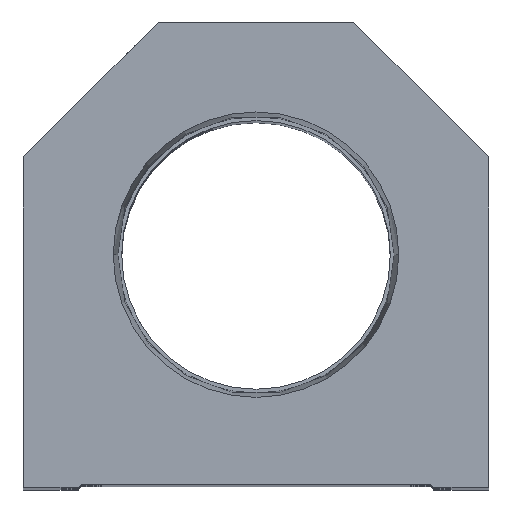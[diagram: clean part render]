
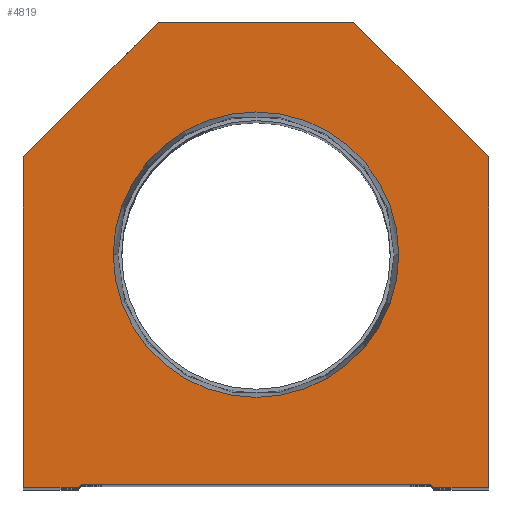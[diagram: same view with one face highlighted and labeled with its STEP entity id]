
A CAD part, top view. The second image highlights one B-rep face of the part: STEP entity #4819.
In plain terms, the highlighted planar face has unit normal (0, 0, 1).
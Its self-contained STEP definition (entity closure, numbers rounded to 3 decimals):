
#162 = CARTESIAN_POINT ( 'NONE',  ( -14.55, 14.55, 0. ) ) ;
#344 = LINE ( 'NONE', #8988, #10031 ) ;
#409 = ORIENTED_EDGE ( 'NONE', *, *, #7203, .T. ) ;
#501 = ORIENTED_EDGE ( 'NONE', *, *, #9640, .T. ) ;
#729 = CARTESIAN_POINT ( 'NONE',  ( 38.1, 0., 0. ) ) ;
#765 = EDGE_CURVE ( 'NONE', #16713, #5226, #12527, .T. ) ;
#839 = EDGE_CURVE ( 'NONE', #6978, #6113, #13245, .T. ) ;
#993 = VECTOR ( 'NONE', #13513, 1000. ) ;
#1048 = EDGE_CURVE ( 'NONE', #17941, #10107, #5691, .T. ) ;
#1127 = EDGE_CURVE ( 'NONE', #14471, #12024, #11930, .T. ) ;
#1178 = DIRECTION ( 'NONE',  ( 0., -1., 0. ) ) ;
#1327 = DIRECTION ( 'NONE',  ( 0.707, -0.707, 0. ) ) ;
#1411 = CARTESIAN_POINT ( 'NONE',  ( 14.55, 14.55, 0. ) ) ;
#1659 = FACE_OUTER_BOUND ( 'NONE', #4245, .T. ) ;
#1836 = ORIENTED_EDGE ( 'NONE', *, *, #17218, .F. ) ;
#1986 = EDGE_CURVE ( 'NONE', #5226, #11975, #344, .T. ) ;
#2217 = VECTOR ( 'NONE', #4104, 1000. ) ;
#3099 = VECTOR ( 'NONE', #5782, 1000. ) ;
#3223 = VERTEX_POINT ( 'NONE', #17939 ) ;
#3318 = DIRECTION ( 'NONE',  ( 0., 0., 1. ) ) ;
#3370 = CARTESIAN_POINT ( 'NONE',  ( 23.374, 38.1, 0. ) ) ;
#3566 = CARTESIAN_POINT ( 'NONE',  ( 0., 38.1, 0. ) ) ;
#3819 = CIRCLE ( 'NONE', #16664, 23.374 ) ;
#3910 = CARTESIAN_POINT ( 'NONE',  ( -38.1, 0., 0. ) ) ;
#4104 = DIRECTION ( 'NONE',  ( -1., 0., 0. ) ) ;
#4245 = EDGE_LOOP ( 'NONE', ( #14524, #10510, #5930, #15777, #5215, #9906, #4619, #501, #12342, #409 ) ) ;
#4501 = CARTESIAN_POINT ( 'NONE',  ( -38.1, 54.1, 0. ) ) ;
#4619 = ORIENTED_EDGE ( 'NONE', *, *, #1127, .T. ) ;
#4635 = EDGE_LOOP ( 'NONE', ( #1836, #15053 ) ) ;
#4819 = ADVANCED_FACE ( 'NONE', ( #8881, #1659 ), #14631, .T. ) ;
#5047 = CARTESIAN_POINT ( 'NONE',  ( 38.1, 54.1, 0. ) ) ;
#5175 = CARTESIAN_POINT ( 'NONE',  ( -38.1, 0., 0. ) ) ;
#5215 = ORIENTED_EDGE ( 'NONE', *, *, #1986, .T. ) ;
#5226 = VERTEX_POINT ( 'NONE', #8097 ) ;
#5330 = VERTEX_POINT ( 'NONE', #5175 ) ;
#5590 = DIRECTION ( 'NONE',  ( 1., 0., 0. ) ) ;
#5691 = LINE ( 'NONE', #162, #3099 ) ;
#5782 = DIRECTION ( 'NONE',  ( 0.707, 0.707, 0. ) ) ;
#5930 = ORIENTED_EDGE ( 'NONE', *, *, #14246, .T. ) ;
#6060 = DIRECTION ( 'NONE',  ( 1., 0., 0. ) ) ;
#6113 = VERTEX_POINT ( 'NONE', #17312 ) ;
#6197 = DIRECTION ( 'NONE',  ( 1., 0., 0. ) ) ;
#6223 = CARTESIAN_POINT ( 'NONE',  ( 16., 76.2, 0. ) ) ;
#6477 = CIRCLE ( 'NONE', #6780, 23.374 ) ;
#6780 = AXIS2_PLACEMENT_3D ( 'NONE', #3566, #13331, #16293 ) ;
#6978 = VERTEX_POINT ( 'NONE', #14446 ) ;
#7014 = DIRECTION ( 'NONE',  ( 0., 0., 1. ) ) ;
#7203 = EDGE_CURVE ( 'NONE', #6113, #5330, #18322, .T. ) ;
#7295 = EDGE_CURVE ( 'NONE', #5330, #17941, #14324, .T. ) ;
#7499 = DIRECTION ( 'NONE',  ( 0., 1., 0. ) ) ;
#7503 = DIRECTION ( 'NONE',  ( -0.707, -0.707, 0. ) ) ;
#8097 = CARTESIAN_POINT ( 'NONE',  ( 29.1, 0., 0. ) ) ;
#8133 = VECTOR ( 'NONE', #1327, 1000. ) ;
#8759 = CARTESIAN_POINT ( 'NONE',  ( -28.6, 0., 0. ) ) ;
#8881 = FACE_BOUND ( 'NONE', #4635, .T. ) ;
#8988 = CARTESIAN_POINT ( 'NONE',  ( 28.6, 0., 0. ) ) ;
#9602 = CARTESIAN_POINT ( 'NONE',  ( -29.1, 0., 0. ) ) ;
#9640 = EDGE_CURVE ( 'NONE', #12024, #6978, #15549, .T. ) ;
#9862 = CARTESIAN_POINT ( 'NONE',  ( 28.6, 0.5, 0. ) ) ;
#9906 = ORIENTED_EDGE ( 'NONE', *, *, #10716, .T. ) ;
#9947 = VECTOR ( 'NONE', #1178, 1000. ) ;
#10031 = VECTOR ( 'NONE', #6060, 1000. ) ;
#10107 = VERTEX_POINT ( 'NONE', #10449 ) ;
#10178 = DIRECTION ( 'NONE',  ( 1., 0., 0. ) ) ;
#10228 = VECTOR ( 'NONE', #7503, 1000. ) ;
#10449 = CARTESIAN_POINT ( 'NONE',  ( -28.6, 0.5, 0. ) ) ;
#10510 = ORIENTED_EDGE ( 'NONE', *, *, #1048, .T. ) ;
#10716 = EDGE_CURVE ( 'NONE', #11975, #14471, #15945, .T. ) ;
#10858 = CARTESIAN_POINT ( 'NONE',  ( 38.1, 54.1, 0. ) ) ;
#11101 = VERTEX_POINT ( 'NONE', #3370 ) ;
#11930 = LINE ( 'NONE', #5047, #993 ) ;
#11975 = VERTEX_POINT ( 'NONE', #729 ) ;
#12024 = VERTEX_POINT ( 'NONE', #6223 ) ;
#12342 = ORIENTED_EDGE ( 'NONE', *, *, #839, .T. ) ;
#12384 = LINE ( 'NONE', #13973, #16890 ) ;
#12527 = LINE ( 'NONE', #1411, #8133 ) ;
#12857 = CARTESIAN_POINT ( 'NONE',  ( 0., 0., 0. ) ) ;
#13245 = LINE ( 'NONE', #4501, #10228 ) ;
#13331 = DIRECTION ( 'NONE',  ( 0., 0., 1. ) ) ;
#13513 = DIRECTION ( 'NONE',  ( -0.707, 0.707, 0. ) ) ;
#13973 = CARTESIAN_POINT ( 'NONE',  ( -28.6, 0.5, 0. ) ) ;
#14246 = EDGE_CURVE ( 'NONE', #10107, #16713, #12384, .T. ) ;
#14324 = LINE ( 'NONE', #8759, #15669 ) ;
#14446 = CARTESIAN_POINT ( 'NONE',  ( -16., 76.2, 0. ) ) ;
#14471 = VERTEX_POINT ( 'NONE', #10858 ) ;
#14524 = ORIENTED_EDGE ( 'NONE', *, *, #7295, .T. ) ;
#14569 = CARTESIAN_POINT ( 'NONE',  ( 38.1, 0., 0. ) ) ;
#14631 = PLANE ( 'NONE',  #16158 ) ;
#15053 = ORIENTED_EDGE ( 'NONE', *, *, #16694, .F. ) ;
#15101 = VECTOR ( 'NONE', #7499, 1000. ) ;
#15549 = LINE ( 'NONE', #18326, #2217 ) ;
#15669 = VECTOR ( 'NONE', #10178, 1000. ) ;
#15777 = ORIENTED_EDGE ( 'NONE', *, *, #765, .T. ) ;
#15945 = LINE ( 'NONE', #14569, #15101 ) ;
#16158 = AXIS2_PLACEMENT_3D ( 'NONE', #12857, #7014, #5590 ) ;
#16293 = DIRECTION ( 'NONE',  ( 1., 0., 0. ) ) ;
#16554 = DIRECTION ( 'NONE',  ( 1., 0., 0. ) ) ;
#16664 = AXIS2_PLACEMENT_3D ( 'NONE', #17550, #3318, #6197 ) ;
#16694 = EDGE_CURVE ( 'NONE', #3223, #11101, #3819, .T. ) ;
#16713 = VERTEX_POINT ( 'NONE', #9862 ) ;
#16890 = VECTOR ( 'NONE', #16554, 1000. ) ;
#17218 = EDGE_CURVE ( 'NONE', #11101, #3223, #6477, .T. ) ;
#17312 = CARTESIAN_POINT ( 'NONE',  ( -38.1, 54.1, 0. ) ) ;
#17550 = CARTESIAN_POINT ( 'NONE',  ( 0., 38.1, 0. ) ) ;
#17939 = CARTESIAN_POINT ( 'NONE',  ( -23.374, 38.1, 0. ) ) ;
#17941 = VERTEX_POINT ( 'NONE', #9602 ) ;
#18322 = LINE ( 'NONE', #3910, #9947 ) ;
#18326 = CARTESIAN_POINT ( 'NONE',  ( 16., 76.2, 0. ) ) ;
